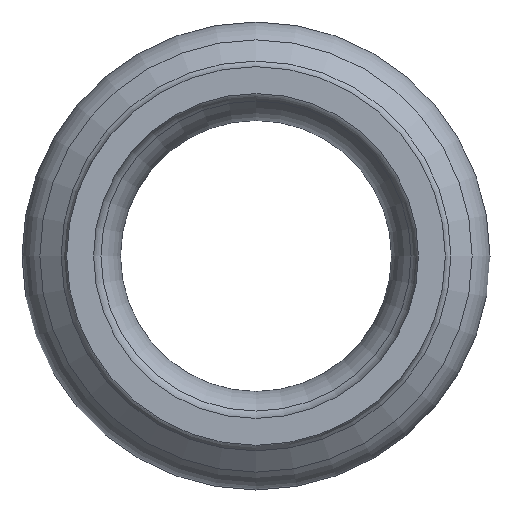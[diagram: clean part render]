
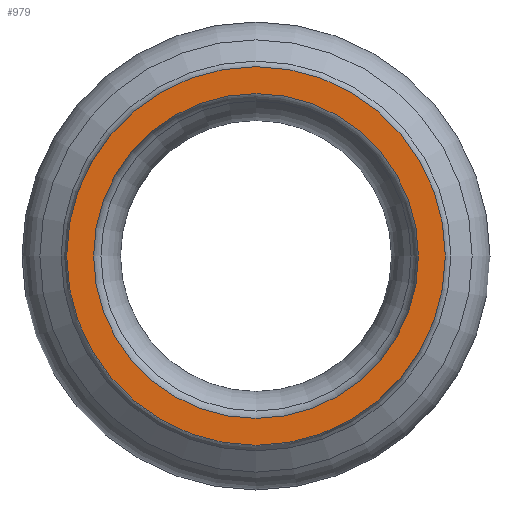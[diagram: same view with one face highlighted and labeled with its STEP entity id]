
A CAD part, left-side view. The second image highlights one B-rep face of the part: STEP entity #979.
In plain terms, the highlighted planar face has unit normal (-1, 0, 0).
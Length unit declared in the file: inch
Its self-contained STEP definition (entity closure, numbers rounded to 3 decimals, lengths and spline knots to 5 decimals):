
#46=FACE_BOUND('',#183,.T.);
#48=PLANE('',#1169);
#141=FACE_OUTER_BOUND('',#182,.T.);
#182=EDGE_LOOP('',(#868,#869));
#183=EDGE_LOOP('',(#870,#871));
#313=CIRCLE('',#1167,0.6575);
#314=CIRCLE('',#1168,0.6575);
#315=CIRCLE('',#1170,0.7665);
#316=CIRCLE('',#1171,0.7665);
#425=VERTEX_POINT('',#1867);
#426=VERTEX_POINT('',#1869);
#427=VERTEX_POINT('',#1873);
#428=VERTEX_POINT('',#1874);
#574=EDGE_CURVE('',#426,#425,#313,.T.);
#575=EDGE_CURVE('',#425,#426,#314,.T.);
#576=EDGE_CURVE('',#427,#428,#315,.T.);
#577=EDGE_CURVE('',#428,#427,#316,.T.);
#868=ORIENTED_EDGE('',*,*,#576,.F.);
#869=ORIENTED_EDGE('',*,*,#577,.F.);
#870=ORIENTED_EDGE('',*,*,#574,.T.);
#871=ORIENTED_EDGE('',*,*,#575,.T.);
#979=ADVANCED_FACE('',(#141,#46),#48,.T.);
#1167=AXIS2_PLACEMENT_3D('',#1870,#1537,#1538);
#1168=AXIS2_PLACEMENT_3D('',#1871,#1539,#1540);
#1169=AXIS2_PLACEMENT_3D('',#1872,#1541,#1542);
#1170=AXIS2_PLACEMENT_3D('',#1875,#1543,#1544);
#1171=AXIS2_PLACEMENT_3D('',#1876,#1545,#1546);
#1537=DIRECTION('center_axis',(1.,0.,0.));
#1538=DIRECTION('ref_axis',(0.,1.,0.));
#1539=DIRECTION('center_axis',(1.,0.,0.));
#1540=DIRECTION('ref_axis',(0.,1.,0.));
#1541=DIRECTION('center_axis',(-1.,0.,0.));
#1542=DIRECTION('ref_axis',(0.,0.,1.));
#1543=DIRECTION('center_axis',(1.,0.,0.));
#1544=DIRECTION('ref_axis',(0.,1.,0.));
#1545=DIRECTION('center_axis',(1.,0.,0.));
#1546=DIRECTION('ref_axis',(0.,1.,0.));
#1867=CARTESIAN_POINT('',(-1.555,-0.6575,0.));
#1869=CARTESIAN_POINT('',(-1.555,0.6575,0.));
#1870=CARTESIAN_POINT('Origin',(-1.555,0.,0.));
#1871=CARTESIAN_POINT('Origin',(-1.555,0.,0.));
#1872=CARTESIAN_POINT('Origin',(-1.555,0.712,0.));
#1873=CARTESIAN_POINT('',(-1.555,0.7665,0.));
#1874=CARTESIAN_POINT('',(-1.555,-0.7665,0.));
#1875=CARTESIAN_POINT('Origin',(-1.555,0.,0.));
#1876=CARTESIAN_POINT('Origin',(-1.555,0.,0.));
